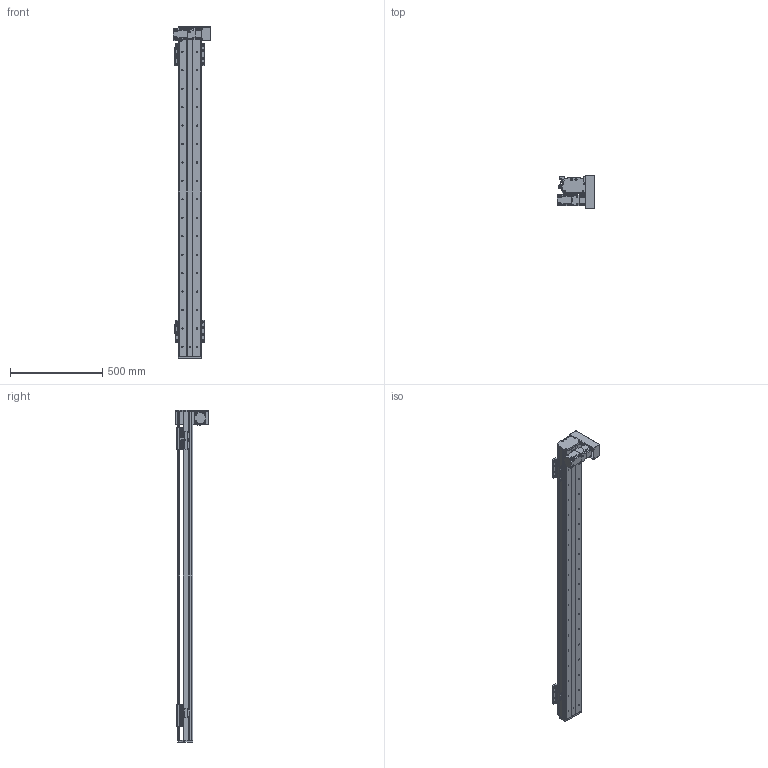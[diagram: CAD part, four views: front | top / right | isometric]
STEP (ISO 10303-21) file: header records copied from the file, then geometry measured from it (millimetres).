
FILE_DESCRIPTION(/* description */ (''),/* implementation_level */ '2;1');
FILE_NAME(/* name */ 'C:\Users\PC\Desktop\3D도면\STEP\새 폴더\DSB125-DR2G-W1500-L.stp',/* time_stamp */ '2018-06-21T15:00:33+09:00',/* author */ ('PC'),/* organization */ (''),/* preprocessor_version */ 'ST-DEVELOPER v16.5',/* originating_system */ 'Autodesk Inventor 2017',/* authorisation */ '');
FILE_SCHEMA (('AUTOMOTIVE_DESIGN { 1 0 10303 214 3 1 1 }'));
Length unit declared in the file: millimetre
Products named in the file (12): DSB125-DL2G-W1500-R_MIR; DSB125-BASE_MIR; DSB125-FRONT COVER_MIR; DSB125-REAR COVER_MIR; DSB125-UP COVER_MIR; hg-kr23__MIR; ab0601-p0401200402_MIR; 13-BELT COVER_MIR; DSR125-SENSOR DOG_MIR; pm-y65_step_MIR; SENSOR BRACKET(EE-SX674A)_MIR; DSB125-TABLE(MSB15S)_MIR
Assembly tree (16 placements, depth 2):
  DSB125-DL2G-W1500-R_MIR
    DSB125-BASE_MIR
    DSB125-FRONT COVER_MIR
    DSB125-REAR COVER_MIR
    DSB125-UP COVER_MIR
    hg-kr23__MIR
    ab0601-p0401200402_MIR
    13-BELT COVER_MIR
    DSR125-SENSOR DOG_MIR
    pm-y65_step_MIR  x3
    SENSOR BRACKET(EE-SX674A)_MIR  x3
    DSB125-TABLE(MSB15S)_MIR  x2
Bounding box: 202.1 x 182 x 1800 mm (x, y, z)
Volume: 6222243.4 mm3; surface area: 1789510.2 mm2
Topology: 17 solids, 17 shells, 1683 faces, 4560 edges, 3002 vertices
Faces by surface type: plane 903, cylinder 642, cone 126, sphere 8, torus 4
Full cylindrical faces by diameter (mm): 2.459 x20, 3.242 x16, 3.5 x6, 4 x1, 4.134 x16, 4.2 x4, 4.3 x1, 4.5 x50, 4.917 x20, 5 x22, 5.3 x1, 5.5 x4, 5.6 x8, 5.8 x4, 5.9 x8, 6 x4, 6.6 x22, 6.647 x36, 7.5 x32, 8.5 x8, 8.7 x1, 11 x22, 14 x1, 16 x2, 17 x1, 20 x1, 47 x1, 50 x3
Entity records: 36473 total; most frequent: CARTESIAN_POINT 6555, DIRECTION 6202, ORIENTED_EDGE 5522, EDGE_CURVE 2761, AXIS2_PLACEMENT_3D 2289, VERTEX_POINT 1970, EDGE_LOOP 1717, LINE 1624
